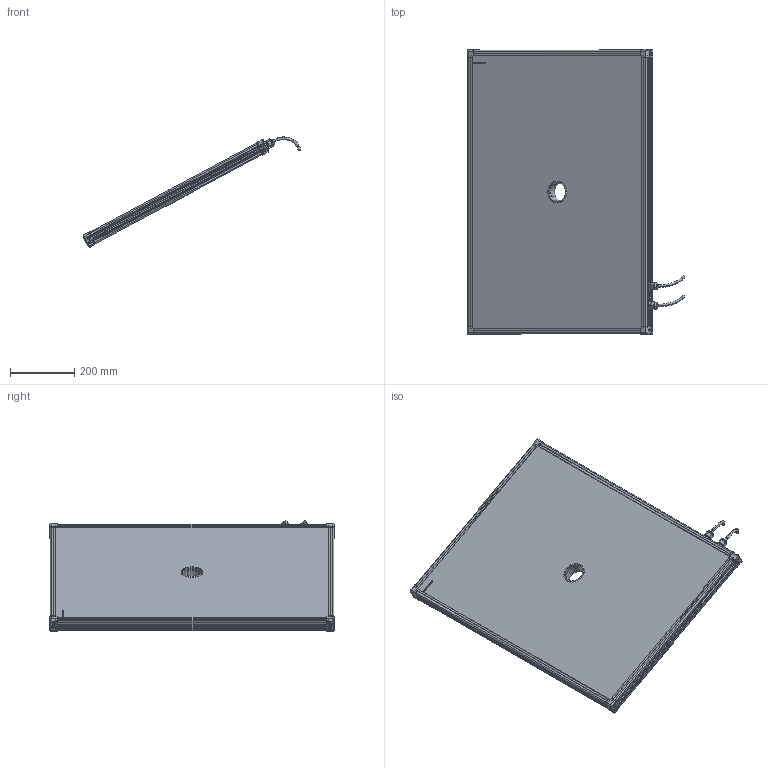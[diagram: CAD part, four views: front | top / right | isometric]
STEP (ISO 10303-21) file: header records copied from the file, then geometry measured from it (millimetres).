
FILE_DESCRIPTION (( 'STEP AP214' ), '1' );
FILE_NAME ('EFFI-FD-600-850-ZZZ-2M12P.STEP', '2021-06-21T09:54:03', ( '' ), ( '' ), 'SwSTEP 2.0', 'SolidWorks 2021', '' );
FILE_SCHEMA (( 'AUTOMOTIVE_DESIGN' ));
Length unit declared in the file: millimetre
Products named in the file (13): petite joue; 001037; profile Y_PERCE; 000629; petite joue + vis; 000590; EFFI-FD-600-850-ZZZ-2M12P; 001038; Pièce13^EFFI-FD-XXX-YYY-ZZZ (2 connecteurs) M12 POWER Ø58.5; Assemblage Ø58.5; M12 power; profile X_PERCE
Assembly tree (20 placements, depth 3):
  EFFI-FD-600-850-ZZZ-2M12P
    profile X_PERCE  x2
    profile Y_PERCE
    profile Y_PERCE
    Pièce13^EFFI-FD-XXX-YYY-ZZZ (2 connecteurs) M12 POWER Ø58.5
    petite joue + vis  x4
      petite joue
      000629
    M12 power  x2
    Assemblage Ø58.5
      001037
      001038
      000590  x3
Bounding box: 679.66 x 889 x 343.92 mm (x, y, z)
Volume: 19652975.5 mm3; surface area: 1614022.4 mm2
Topology: 22 solids, 28 shells, 4002 faces, 10650 edges, 6994 vertices
Faces by surface type: plane 2479, cylinder 737, bspline 591, cone 154, torus 33, sphere 8
Entity records: 56584 total; most frequent: CARTESIAN_POINT 22742, ORIENTED_EDGE 7114, DIRECTION 5810, EDGE_CURVE 3559, VECTOR 2478, LINE 2478, VERTEX_POINT 2341, AXIS2_PLACEMENT_3D 1666
